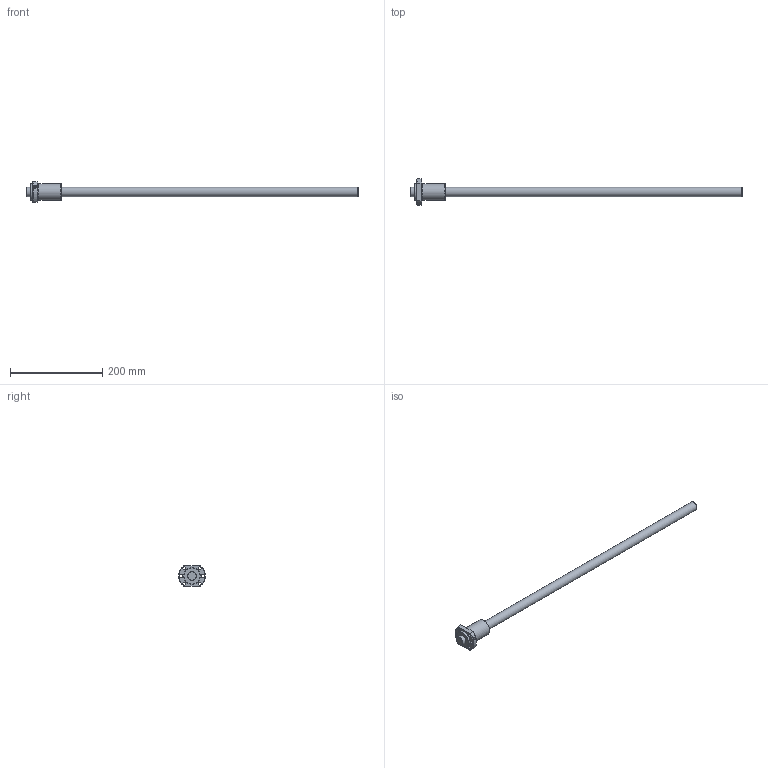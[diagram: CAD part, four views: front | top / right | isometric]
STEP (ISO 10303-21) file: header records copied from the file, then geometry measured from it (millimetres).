
FILE_DESCRIPTION(/* description */ ('STEP AP214'),/* implementation_level */ '2;1');
FILE_NAME(/* name */ 'EPB2005-6RRG0+720LC0(634G000)_rev',/* time_stamp */ '2023-08-03T13:24:29+02:00',/* author */ ('License CC BY-ND 4.0'),/* organization */ ('CADENAS'),/* preprocessor_version */ 'ST-DEVELOPER v19.3',/* originating_system */ 'PARTsolutions',/* authorisation */ ' ');
FILE_SCHEMA (('AUTOMOTIVE_DESIGN {1 0 10303 214 3 1 1}'));
Length unit declared in the file: millimetre
Products named in the file (3): EPB2005-6RRG0+720LC0(634G000)_rev; EPB 2005-6RR Nut1; EPB 2005-66340 Shaft1
Assembly tree (2 placements, depth 2):
  EPB2005-6RRG0+720LC0(634G000)_rev
    EPB 2005-6RR Nut1
    EPB 2005-66340 Shaft1
Bounding box: 720 x 58 x 44 mm (x, y, z)
Volume: 282293.6 mm3; surface area: 63061.5 mm2
Topology: 2 solids, 2 shells, 32 faces, 72 edges, 47 vertices
Faces by surface type: cylinder 14, cone 9, plane 9
Full cylindrical faces by diameter (mm): 4.917 x1, 6.6 x6, 20 x2, 33.84 x1, 36 x2
Entity records: 935 total; most frequent: CARTESIAN_POINT 177, DIRECTION 148, ORIENTED_EDGE 106, AXIS2_PLACEMENT_3D 70, EDGE_LOOP 68, FACE_BOUND 68, EDGE_CURVE 53, VERTEX_POINT 45
